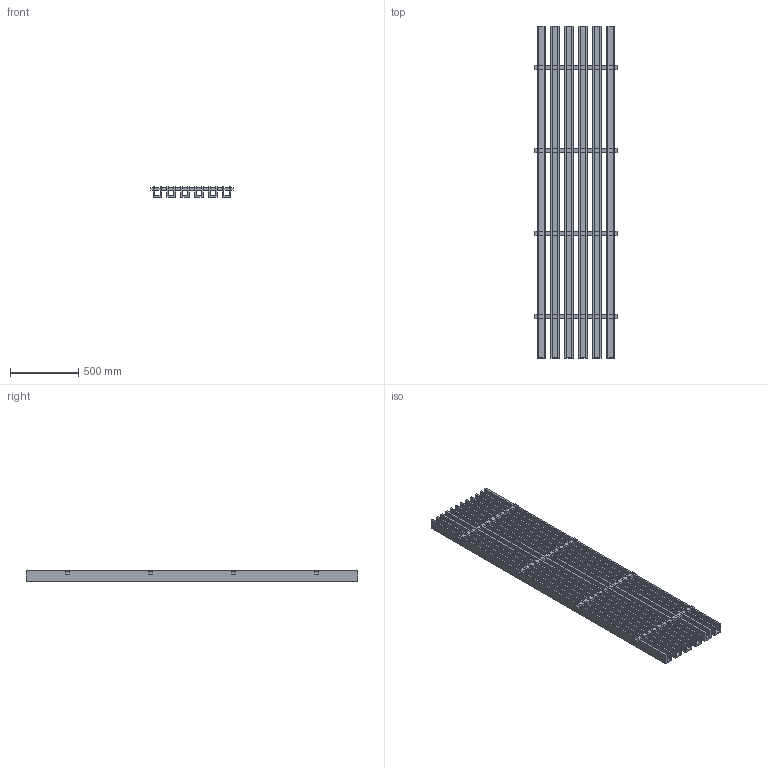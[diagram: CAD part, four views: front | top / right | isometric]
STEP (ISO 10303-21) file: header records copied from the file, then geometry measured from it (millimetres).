
FILE_DESCRIPTION(/* description */ (''),/* implementation_level */ '2;1');
FILE_NAME(/* name */ 'PET GRILLA_2.5x3_8ft',/* time_stamp */ '2024-10-15T14:21:50-05:00',/* author */ (''),/* organization */ (''),/* preprocessor_version */ 'ST-DEVELOPER v19.2',/* originating_system */ 'Rhino 8.4',/* authorisation */ '');
FILE_SCHEMA (('CONFIG_CONTROL_DESIGN'));
Length unit declared in the file: inch
Products named in the file (1): Document
Bounding box: 603.25 x 2438.4 x 76.2 mm (x, y, z)
Volume: 36486822.2 mm3; surface area: 6104826.5 mm2
Topology: 1 solids, 1 shells, 276 faces, 768 edges, 512 vertices
Faces by surface type: plane 276
Entity records: 7852 total; most frequent: CARTESIAN_POINT 2326, ORIENTED_EDGE 1536, EDGE_CURVE 768, B_SPLINE_CURVE_WITH_KNOTS 768, VERTEX_POINT 512, EDGE_LOOP 372, DIRECTION 280, AXIS2_PLACEMENT_3D 278
